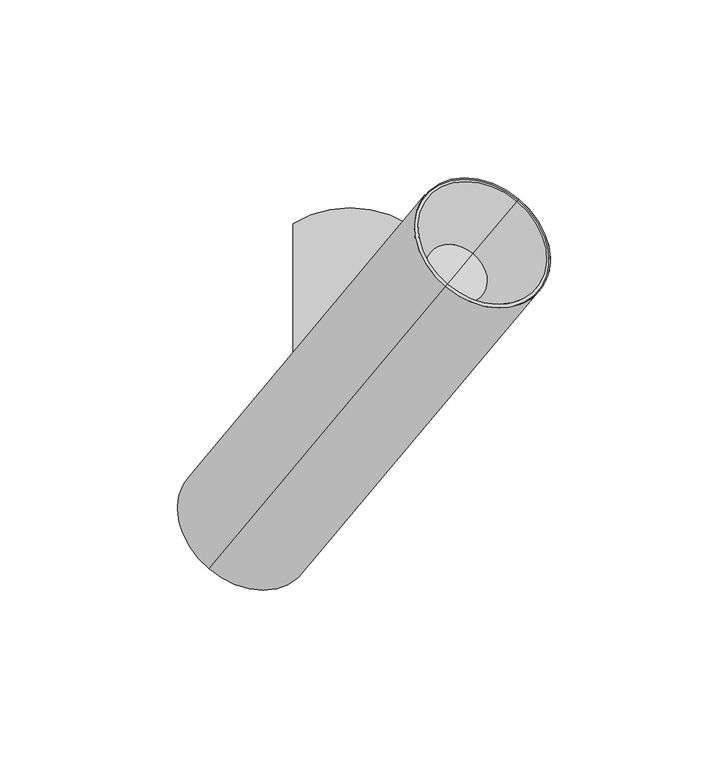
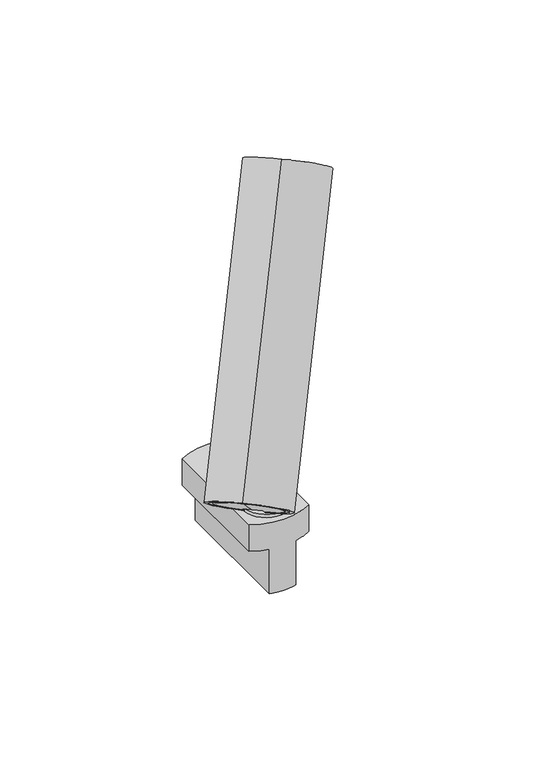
"""IFC4 building model written with IfcOpenShell, lengths in millimetres: light fixture geometry, PIPES T XS : 490lm 7,8W 930 38°."""

from ifc_helpers import new_model, si_unit, point, frame, frame_2d, origin, origin_2d, place, context, project, spatial, polyline, circle_curve, trimmed, segment, composite_curve, outline, extrude, source, transform, mapped, element, save
from ifc_brep_helpers import plane_surface, cylinder_surface, revolved_surface, advanced_brep


def light_fixture_e3e40d72(model_context):
    return source(origin(), model_context, "Body", "SolidModel", [
        extrude(outline(composite_curve([segment(polyline([(39.7303383, 0.0), (39.7303383, -8.0), (36.7303383, -8.0), (36.7303383, -10.0000001), (-21.31827, -10.0000001), (-21.31827, -2.0)]), True, "CONTINUOUS"), segment(trimmed(circle_curve(frame_2d((-15.691322, -2.0)), 5.626948), [point((-21.31827, -2.0))], [point((-15.691322, 3.626948))], False, "CARTESIAN"), True, "CONTINUOUS"), segment(polyline([(-15.691322, 3.626948), (-9.8735653, 3.626948)]), True, "CONTINUOUS"), segment(trimmed(circle_curve(frame_2d((-17.7182036, -2.2388679)), 9.7952104), [point((-9.8735653, 3.626948))], [point((-8.1822916, 0.0))], False, "CARTESIAN"), True, "CONTINUOUS"), segment(polyline([(-8.1822916, 0.0), (39.7303383, 0.0)]), True, "CONTINUOUS")], self_intersect=False)), frame((0.6162842, -7.0441603, 56.5303383), z_axis=(-0.7660444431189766, 0.6427876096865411, 0.0), x_axis=(0.0, 0.0, -1.0)), (0.0, 0.0, 1.0), 10.0),
        extrude(outline(composite_curve([segment(trimmed(circle_curve(origin_2d(), 12.5), [point((-9.5755555, 8.0348451))], [point((9.5755555, -8.0348451))], False, "CARTESIAN"), True, "CONTINUOUS"), segment(trimmed(circle_curve(origin_2d(), 12.5), [point((9.5755555, -8.0348451))], [point((-9.5755555, 8.0348451))], False, "CARTESIAN"), True, "CONTINUOUS")], self_intersect=False)), frame((0.0, 0.0, 15.0), z_axis=(0.0, 0.0, 1.0), x_axis=(1.0, 0.0, 0.0)), (0.0, 0.0, 1.0), 1.8),
        advanced_brep(
        [(-7.1153658, -15.2862846, -25.0), (-7.1153658, 53.3498174, -25.0), (7.1153658, 53.3498174, -25.0), (7.1153658, -15.2862846, -25.0), (-16.1153658, 49.7317664, 15.0), (-16.1153658, -11.6682336, 15.0), (16.1153658, -11.6682336, 15.0), (16.1153658, 49.7317664, 15.0), (-16.1153658, 49.7317664, 0.0), (-16.1153658, -11.6682336, 0.0), (-7.1153658, -15.2862846, 0.0), (7.1153658, -15.2862846, 0.0), (16.1153658, -11.6682336, 0.0), (16.1153658, 49.7317664, 0.0), (7.1153658, 53.3498174, 0.0), (-7.1153658, 53.3498174, 0.0)],
        [
            (0, 1),
            (1, 2, circle_curve(frame((0.0, 22.6472542, -25.0), z_axis=(0.0, 0.0, -1.0), x_axis=(1.0, 0.0, 0.0)), 31.5162786)),
            (2, 3),
            (3, 0, circle_curve(frame((0.0, 15.4162786, -25.0), z_axis=(0.0, 0.0, -1.0), x_axis=(1.0, 0.0, 0.0)), 31.5162786)),
            (4, 5),
            (5, 6, circle_curve(frame((0.0, 15.4162786, 15.0), z_axis=(0.0, 0.0, 1.0), x_axis=(1.0, 0.0, 0.0)), 31.5162786)),
            (6, 7),
            (7, 4, circle_curve(frame((0.0, 22.6472542, 15.0), z_axis=(0.0, 0.0, 1.0), x_axis=(1.0, 0.0, 0.0)), 31.5162786)),
            (4, 8),
            (8, 9),
            (9, 5),
            (9, 10, circle_curve(frame((0.0, 15.4162786, 0.0), z_axis=(0.0, 0.0, 1.0), x_axis=(1.0, 0.0, 0.0)), 31.5162786)),
            (10, 0),
            (3, 11),
            (11, 12, circle_curve(frame((0.0, 15.4162786, 0.0), z_axis=(0.0, 0.0, 1.0), x_axis=(1.0, 0.0, 0.0)), 31.5162786)),
            (12, 6),
            (12, 13),
            (13, 7),
            (13, 14, circle_curve(frame((0.0, 22.6472542, 0.0), z_axis=(0.0, 0.0, 1.0), x_axis=(1.0, 0.0, 0.0)), 31.5162786)),
            (14, 2),
            (1, 15),
            (15, 8, circle_curve(frame((0.0, 22.6472542, 0.0), z_axis=(0.0, 0.0, 1.0), x_axis=(1.0, 0.0, 0.0)), 31.5162786)),
            (15, 10),
            (11, 14),
        ],
        [
            plane_surface(frame((-16.1153658, -11.6883244, -25.0), z_axis=(0.0, 0.0, -1.0), x_axis=(0.0, 1.0, 0.0))),
            plane_surface(frame((-16.1153658, -11.6883244, 15.0), z_axis=(0.0, 0.0, 1.0), x_axis=(0.0, -1.0, 0.0))),
            plane_surface(frame((-16.1153658, 49.7317664, 15.0), z_axis=(-1.0, 0.0, 0.0), x_axis=(0.0, 0.0, -1.0))),
            cylinder_surface(frame((0.0, 15.4162786, -25.0), z_axis=(0.0, 0.0, 1.0), x_axis=(1.0, 0.0, 0.0)), 31.5162786),
            plane_surface(frame((16.1153658, -11.6682336, 15.0), z_axis=(1.0, 0.0, 0.0), x_axis=(0.0, 0.0, -1.0))),
            cylinder_surface(frame((0.0, 22.6472542, -25.0), z_axis=(0.0, 0.0, 1.0), x_axis=(1.0, 0.0, 0.0)), 31.5162786),
            plane_surface(frame((-7.1153658, 58.6979838, 0.0), z_axis=(0.0, 0.0, -1.0), x_axis=(-1.0, 0.0, 0.0))),
            plane_surface(frame((-7.1153658, -21.3020162, 0.0), z_axis=(-1.0, 0.0, 0.0), x_axis=(0.0, 0.0, -1.0))),
            plane_surface(frame((7.1153658, -11.6883244, 0.0), z_axis=(0.0, 0.0, -1.0), x_axis=(0.0, -1.0, 0.0))),
            plane_surface(frame((7.1153658, 58.6979838, 0.0), z_axis=(1.0, 0.0, 0.0), x_axis=(0.0, 0.0, -1.0))),
        ],
        [
            (0, [[1, 2, 3, 4]]),
            (1, [[5, 6, 7, 8]]),
            (2, [[-5, 9, 10, 11]]),
            (3, [[-6, -11, 12, 13, -4, 14, 15, 16]]),
            (4, [[-7, -16, 17, 18]]),
            (5, [[-8, -18, 19, 20, -2, 21, 22, -9]]),
            (6, [[23, -12, -10, -22]]),
            (7, [[-23, -21, -1, -13]]),
            (8, [[24, -19, -17, -15]]),
            (9, [[-24, -14, -3, -20]]),
        ],
    ),
        advanced_brep(
        [(-4.226362, 2.741837, 80.0441603), (-25.2983335, -22.3707607, 40.9758937), (-21.688864, -18.0691625, 36.2640659), (-24.1679195, -21.0235857, 31.6677992), (-23.1507237, -19.811339, 30.3399445), (0.4003032, 8.2556819, 74.0044777), (3.4340824, -3.6860391, 80.0441603), (8.0607476, 1.8278058, 74.0044777), (-15.4902793, -26.2392151, 30.3399445), (-16.507475, -27.4514618, 31.6677992), (-14.0284196, -24.4970386, 36.2640659), (-17.6378891, -28.7986368, 40.9758937), (-21.4681113, -25.5846988, 40.9758937), (4.5278989, 5.3961398, 73.6162842), (47.4981937, 56.606143, 153.2849063), (26.8172309, 31.9595313, 180.2819859), (-39.7040908, -47.3174929, 56.9488305), (-38.7192831, -46.1438447, 55.6632553), (-36.2402276, -43.1894214, 60.259522), (-26.8845539, -32.0397637, 48.0465574), (24.5899192, 29.3051245, 159.0395), (34.4379967, 41.0416063, 146.1837478), (29.5139579, 35.1733654, 152.6116239)],
        [
            (0, 1),
            (1, 2),
            (2, 3),
            (3, 4),
            (4, 5),
            (5, 0),
            (6, 7),
            (7, 8),
            (8, 9),
            (9, 10),
            (10, 11),
            (11, 6),
            (0, 6),
            (11, 12),
            (12, 1),
            (5, 13, circle_curve(frame((-5.8125825, -6.927166, 87.114824), z_axis=(-0.4131759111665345, -0.49240387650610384, -0.7660444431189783), x_axis=(0.49240387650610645, 0.5868240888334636, -0.6427876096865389)), 21.0)),
            (13, 7, circle_curve(frame((-5.8125825, -6.927166, 87.114824), z_axis=(-0.4131759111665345, -0.49240387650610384, -0.7660444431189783), x_axis=(0.49240387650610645, 0.5868240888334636, -0.6427876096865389)), 21.0)),
            (14, 15, circle_curve(frame((37.1577123, 44.2828371, 166.7834461), z_axis=(-0.4131759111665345, -0.49240387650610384, -0.7660444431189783), x_axis=(0.49240387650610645, 0.5868240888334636, -0.6427876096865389)), 21.0)),
            (15, 16),
            (16, 8, circle_curve(frame((-29.3636094, -34.994187, 43.4502907), z_axis=(0.4131759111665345, 0.49240387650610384, 0.7660444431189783), x_axis=(0.49240387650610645, 0.5868240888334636, -0.6427876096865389)), 21.0)),
            (13, 14),
            (15, 14, circle_curve(frame((37.1577123, 44.2828371, 166.7834461), z_axis=(-0.4131759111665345, -0.49240387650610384, -0.7660444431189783), x_axis=(0.49240387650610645, 0.5868240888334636, -0.6427876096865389)), 21.0)),
            (4, 16, circle_curve(frame((-29.3636094, -34.994187, 43.4502907), z_axis=(0.4131759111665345, 0.49240387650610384, 0.7660444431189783), x_axis=(0.49240387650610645, 0.5868240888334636, -0.6427876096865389)), 21.0)),
            (16, 17),
            (17, 9, circle_curve(frame((-29.3636094, -34.994187, 43.4502907), z_axis=(0.4131759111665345, 0.49240387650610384, 0.7660444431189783), x_axis=(0.49240387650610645, 0.5868240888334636, -0.6427876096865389)), 19.0)),
            (3, 17, circle_curve(frame((-29.3636094, -34.994187, 43.4502907), z_axis=(0.4131759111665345, 0.49240387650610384, 0.7660444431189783), x_axis=(0.49240387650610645, 0.5868240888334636, -0.6427876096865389)), 19.0)),
            (17, 18),
            (18, 10, circle_curve(frame((-26.8845539, -32.0397637, 48.0465574), z_axis=(0.4131759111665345, 0.49240387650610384, 0.7660444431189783), x_axis=(0.49240387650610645, 0.5868240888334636, -0.6427876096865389)), 19.0)),
            (2, 18, circle_curve(frame((-26.8845539, -32.0397637, 48.0465574), z_axis=(0.4131759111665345, 0.49240387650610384, 0.7660444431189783), x_axis=(0.49240387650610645, 0.5868240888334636, -0.6427876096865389)), 19.0)),
            (18, 19),
            (19, 12),
            (20, 21, circle_curve(frame((29.5139579, 35.1733654, 152.6116239), z_axis=(0.4131759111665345, 0.49240387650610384, 0.7660444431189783), x_axis=(0.49240387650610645, 0.5868240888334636, -0.6427876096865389)), 10.0)),
            (21, 22),
            (22, 20),
            (21, 20, circle_curve(frame((29.5139579, 35.1733654, 152.6116239), z_axis=(0.4131759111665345, 0.49240387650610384, 0.7660444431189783), x_axis=(0.49240387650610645, 0.5868240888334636, -0.6427876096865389)), 10.0)),
            (14, 21),
            (20, 15),
        ],
        [
            plane_surface(frame((-4.226362, 2.741837, 80.0441603), z_axis=(0.7660444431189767, -0.6427876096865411, 0.0), x_axis=(0.4131759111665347, 0.4924038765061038, 0.7660444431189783))),
            plane_surface(frame((3.4340824, -3.6860391, 80.0441603), z_axis=(-0.7660444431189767, 0.6427876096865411, 0.0), x_axis=(-0.4131759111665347, -0.4924038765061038, -0.7660444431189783))),
            plane_surface(frame((3.4340824, -3.6860391, 80.0441603), z_axis=(0.49240387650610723, 0.5868240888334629, -0.642787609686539), x_axis=(-0.7660444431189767, 0.642787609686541, 0.0))),
            plane_surface(frame((13.2821599, 8.0504427, 67.1884081), z_axis=(-0.4131759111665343, -0.4924038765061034, -0.7660444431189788), x_axis=(-0.7660444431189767, 0.642787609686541, 0.0))),
            cylinder_surface(frame((-32.8559296, -39.1561721, 36.9753913), z_axis=(-0.4131759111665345, -0.49240387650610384, -0.7660444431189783), x_axis=(0.49240387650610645, 0.5868240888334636, -0.6427876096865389)), 21.0),
            plane_surface(frame((-29.3636094, -34.994187, 43.4502907), z_axis=(-0.4131759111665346, -0.49240387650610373, -0.7660444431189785), x_axis=(0.49240387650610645, 0.5868240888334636, -0.6427876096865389))),
            revolved_surface(polyline([(-20.007935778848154, -23.844529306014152, 31.237326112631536), (-17.528880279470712, -20.890106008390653, 35.83359283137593)]), (-32.8559296, -39.1561721, 36.9753913), (-0.4131759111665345, -0.49240387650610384, -0.7660444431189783)),
            plane_surface(frame((-26.8845539, -32.0397637, 48.0465574), z_axis=(-0.4131759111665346, -0.49240387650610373, -0.7660444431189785), x_axis=(0.49240387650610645, 0.5868240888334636, -0.6427876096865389))),
            plane_surface(frame((29.5139579, 35.1733654, 152.6116239), z_axis=(0.4131759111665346, 0.49240387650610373, 0.7660444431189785), x_axis=(0.49240387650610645, 0.5868240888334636, -0.6427876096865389))),
            revolved_surface(polyline([(34.4379967, 41.0416063, 146.1837478), (47.4981937, 56.606143, 153.2849063)]), (-32.8559296, -39.1561721, 36.9753913), (-0.4131759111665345, -0.49240387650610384, -0.7660444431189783)),
        ],
        [
            (0, [[1, 2, 3, 4, 5, 6]]),
            (1, [[7, 8, 9, 10, 11, 12]]),
            (2, [[13, -12, 14, 15, -1]]),
            (3, [[-13, -6, 16, 17, -7]]),
            (4, [[18, 19, 20, -8, -17, 21]]),
            (4, [[-19, 22, -21, -16, -5, 23]]),
            (5, [[24, 25, -9, -20]]),
            (5, [[-24, -23, -4, 26]]),
            (6, [[27, 28, -10, -25]]),
            (6, [[-27, -26, -3, 29]]),
            (7, [[30, 31, -14, -11, -28]]),
            (7, [[-30, -29, -2, -15, -31]]),
            (8, [[32, 33, 34]]),
            (8, [[-33, 35, -34]]),
            (9, [[-18, 36, -32, 37]]),
            (9, [[-22, -37, -35, -36]]),
        ],
    ),
        advanced_brep(
        [(-26.9510372, -24.3403762, 37.9117159), (-27.777389, -25.325184, 36.379627), (-25.1964905, -22.249389, 33.0105034), (-24.3701387, -21.2645812, 34.5425923), (-20.1169445, -31.7530601, 36.379627), (-19.2905927, -30.7682523, 37.9117159), (-16.7096943, -27.6924573, 34.5425923), (-17.5360461, -28.6772651, 33.0105034), (-23.1208149, -27.5543143, 37.9117159), (-23.9471668, -28.539122, 36.379627), (-28.5372576, -34.0093792, 44.9823796), (-36.9049935, -43.9816585, 55.905683), (-37.7313453, -44.9664663, 54.3735941), (-29.3636094, -34.994187, 43.4502907)],
        [
            (0, 1),
            (1, 2),
            (2, 3),
            (3, 0),
            (4, 5),
            (5, 6),
            (6, 7),
            (7, 4),
            (0, 8),
            (8, 5),
            (4, 9),
            (9, 1),
            (10, 11),
            (11, 6, circle_curve(frame((-28.5372576, -34.0093792, 44.9823796), z_axis=(0.41317591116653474, 0.49240387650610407, 0.7660444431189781), x_axis=(0.4924038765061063, 0.5868240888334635, -0.6427876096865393)), 16.9936434)),
            (8, 10),
            (3, 11, circle_curve(frame((-28.5372576, -34.0093792, 44.9823796), z_axis=(0.41317591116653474, 0.49240387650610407, 0.7660444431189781), x_axis=(0.4924038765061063, 0.5868240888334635, -0.6427876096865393)), 16.9936434)),
            (11, 12),
            (12, 7, circle_curve(frame((-29.3636094, -34.994187, 43.4502907), z_axis=(0.41317591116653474, 0.49240387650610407, 0.7660444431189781), x_axis=(0.4924038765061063, 0.5868240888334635, -0.6427876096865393)), 16.9936434)),
            (2, 12, circle_curve(frame((-29.3636094, -34.994187, 43.4502907), z_axis=(0.41317591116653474, 0.49240387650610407, 0.7660444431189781), x_axis=(0.4924038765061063, 0.5868240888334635, -0.6427876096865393)), 16.9936434)),
            (12, 13),
            (13, 9),
        ],
        [
            plane_surface(frame((-4.226362, 2.741837, 80.0441603), z_axis=(0.7660444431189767, -0.6427876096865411, 0.0), x_axis=(0.4131759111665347, 0.4924038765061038, 0.7660444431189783))),
            plane_surface(frame((3.4340824, -3.6860391, 80.0441603), z_axis=(-0.7660444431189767, 0.6427876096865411, 0.0), x_axis=(-0.4131759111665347, -0.4924038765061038, -0.7660444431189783))),
            plane_surface(frame((3.4340824, -3.6860391, 80.0441603), z_axis=(0.49240387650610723, 0.5868240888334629, -0.642787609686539), x_axis=(-0.7660444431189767, 0.642787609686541, 0.0))),
            plane_surface(frame((-28.5372576, -34.0093792, 44.9823796), z_axis=(0.4131759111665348, 0.492403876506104, 0.7660444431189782), x_axis=(0.4924038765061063, 0.5868240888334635, -0.6427876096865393))),
            cylinder_surface(frame((25.1952859, 30.0265725, 144.6046355), z_axis=(-0.41317591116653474, -0.49240387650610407, -0.7660444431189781), x_axis=(0.4924038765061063, 0.5868240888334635, -0.6427876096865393)), 16.9936434),
            plane_surface(frame((-29.3636094, -34.994187, 43.4502907), z_axis=(-0.4131759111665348, -0.492403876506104, -0.7660444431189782), x_axis=(0.4924038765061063, 0.5868240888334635, -0.6427876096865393))),
        ],
        [
            (0, [[1, 2, 3, 4]]),
            (1, [[5, 6, 7, 8]]),
            (2, [[-1, 9, 10, -5, 11, 12]]),
            (3, [[13, 14, -6, -10, 15]]),
            (3, [[-13, -15, -9, -4, 16]]),
            (4, [[17, 18, -7, -14]]),
            (4, [[-17, -16, -3, 19]]),
            (5, [[20, 21, -11, -8, -18]]),
            (5, [[-20, -19, -2, -12, -21]]),
        ],
    ),
        advanced_brep(
        [(25.2831862, 30.131328, 159.4399114), (34.5710815, 41.2002106, 147.3154252), (29.9271338, 35.6657693, 153.3776683), (27.3901027, 32.6422533, 179.5341548), (46.9253219, 55.923421, 154.0327373), (26.8172309, 31.9595313, 180.2819859), (47.4981937, 56.606143, 153.2849063), (24.5899192, 29.3051245, 159.0395), (34.4379967, 41.0416063, 146.1837478), (29.5139579, 35.1733654, 152.6116239)],
        [
            (0, 1, circle_curve(frame((29.9271338, 35.6657693, 153.3776683), z_axis=(0.41317591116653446, 0.49240387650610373, 0.7660444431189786), x_axis=(0.4924038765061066, 0.5868240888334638, -0.6427876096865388)), 9.431176)),
            (1, 2),
            (2, 0),
            (1, 0, circle_curve(frame((29.9271338, 35.6657693, 153.3776683), z_axis=(0.41317591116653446, 0.49240387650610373, 0.7660444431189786), x_axis=(0.4924038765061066, 0.5868240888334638, -0.6427876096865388)), 9.431176)),
            (3, 4, circle_curve(frame((37.1577123, 44.2828371, 166.7834461), z_axis=(0.41317591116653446, 0.49240387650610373, 0.7660444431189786), x_axis=(0.4924038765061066, 0.5868240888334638, -0.6427876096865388)), 19.8365814)),
            (4, 1),
            (0, 3),
            (4, 3, circle_curve(frame((37.1577123, 44.2828371, 166.7834461), z_axis=(0.41317591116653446, 0.49240387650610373, 0.7660444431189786), x_axis=(0.4924038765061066, 0.5868240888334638, -0.6427876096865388)), 19.8365814)),
            (5, 6, circle_curve(frame((37.1577123, 44.2828371, 166.7834461), z_axis=(0.41317591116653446, 0.49240387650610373, 0.7660444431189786), x_axis=(0.4924038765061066, 0.5868240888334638, -0.6427876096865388)), 21.0)),
            (6, 4),
            (3, 5),
            (6, 5, circle_curve(frame((37.1577123, 44.2828371, 166.7834461), z_axis=(0.41317591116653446, 0.49240387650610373, 0.7660444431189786), x_axis=(0.4924038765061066, 0.5868240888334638, -0.6427876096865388)), 21.0)),
            (7, 8, circle_curve(frame((29.5139579, 35.1733654, 152.6116239), z_axis=(0.41317591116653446, 0.49240387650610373, 0.7660444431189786), x_axis=(0.4924038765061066, 0.5868240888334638, -0.6427876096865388)), 10.0)),
            (8, 6),
            (5, 7),
            (8, 7, circle_curve(frame((29.5139579, 35.1733654, 152.6116239), z_axis=(0.41317591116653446, 0.49240387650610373, 0.7660444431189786), x_axis=(0.4924038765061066, 0.5868240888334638, -0.6427876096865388)), 10.0)),
            (9, 8),
            (7, 9),
        ],
        [
            plane_surface(frame((29.9271338, 35.6657693, 153.3776683), z_axis=(0.41317591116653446, 0.49240387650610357, 0.7660444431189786), x_axis=(0.4924038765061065, 0.5868240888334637, -0.6427876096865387))),
            revolved_surface(polyline([(34.5710815, 41.2002106, 147.3154252), (46.9253219, 55.923421, 154.0327373)]), (-41.1194478, -49.0042497, 21.6545024), (-0.41317591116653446, -0.49240387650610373, -0.7660444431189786)),
            plane_surface(frame((37.1577123, 44.2828371, 166.7834461), z_axis=(0.41317591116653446, 0.49240387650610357, 0.7660444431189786), x_axis=(0.4924038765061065, 0.5868240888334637, -0.6427876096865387))),
            revolved_surface(polyline([(47.4981937, 56.606143, 153.2849063), (34.4379967, 41.0416063, 146.1837478)]), (-41.1194478, -49.0042497, 21.6545024), (-0.41317591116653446, -0.49240387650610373, -0.7660444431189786)),
            plane_surface(frame((29.5139579, 35.1733654, 152.6116239), z_axis=(-0.41317591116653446, -0.49240387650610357, -0.7660444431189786), x_axis=(0.4924038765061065, 0.5868240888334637, -0.6427876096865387))),
        ],
        [
            (0, [[1, 2, 3]]),
            (0, [[4, -3, -2]]),
            (1, [[5, 6, -1, 7]]),
            (1, [[8, -7, -4, -6]]),
            (2, [[9, 10, -5, 11]]),
            (2, [[12, -11, -8, -10]]),
            (3, [[13, 14, -9, 15]]),
            (3, [[16, -15, -12, -14]]),
            (4, [[17, -13, 18]]),
            (4, [[-18, -16, -17]]),
        ],
    ),
    ])


if __name__ == "__main__":
    model = new_model("IFC4")
    model_context = context("Model", 3, world=origin())
    ifc_project = project(units=[si_unit("LENGTHUNIT", "METRE", prefix="MILLI")], contexts=[model_context])
    site = spatial("IfcSite", under=ifc_project)
    building = spatial("IfcBuilding", under=site)
    placement = place(None, origin())
    light_fixture_shape = light_fixture_e3e40d72(model_context)
    element("IfcLightFixture", 1, ObjectType="PIPES T XS : 490lm 7,8W 930 38°", at=placement, inside=building, context=model_context, shape_type="MappedRepresentation", body=[
        mapped(light_fixture_shape, transform((0.0, 0.0, 0.0), x_axis=(1.0, 0.0, 0.0), y_axis=(0.0, 1.0, 0.0), z_axis=(0.0, 0.0, 1.0))),
    ])
    save(model, "model.ifc")
